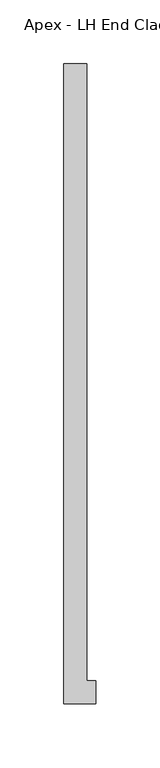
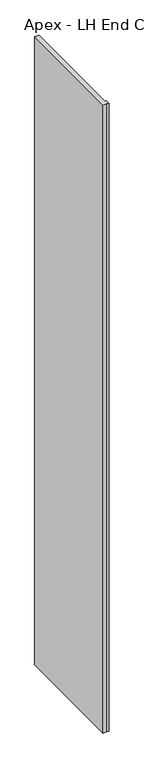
"""IFC4 building model written with IfcOpenShell, lengths in millimetres: furniture geometry, Apex - LH End Clad : Apex LH end clad."""

from ifc_helpers import new_model, si_unit, origin, origin_with_axes, place, context, project, spatial, polyline, outline, extrude, source, transform, mapped, element, save


def apex_lh_end_clad_apex_lh_end_clad_b14ebef5(model_context):
    return source(origin(), model_context, "Body", "SweptSolid", [
        extrude(outline(polyline([(18.0, 0.0), (18.0, -482.9540101), (25.0, -482.9540101), (25.0, -500.9540101), (13.9001791, -500.9540101), (0.0, -500.9540101), (0.0, 0.0), (18.0, 0.0)])), origin_with_axes(), (0.0, 0.0, 1.0), 2800.0),
    ])


if __name__ == "__main__":
    model = new_model("IFC4")
    model_context = context("Model", 3, world=origin())
    ifc_project = project(units=[si_unit("LENGTHUNIT", "METRE", prefix="MILLI")], contexts=[model_context])
    site = spatial("IfcSite", under=ifc_project)
    building = spatial("IfcBuilding", under=site)
    placement = place(None, origin())
    apex_lh_end_clad_apex_lh_end_clad_shape = apex_lh_end_clad_apex_lh_end_clad_b14ebef5(model_context)
    element("IfcFurniture", 1, ObjectType="Apex - LH End Clad : Apex LH end clad", at=placement, inside=building, context=model_context, shape_type="MappedRepresentation", body=[
        mapped(apex_lh_end_clad_apex_lh_end_clad_shape, transform((0.0, 0.0, 0.0), x_axis=(1.0, 0.0, 0.0), y_axis=(0.0, 1.0, 0.0), z_axis=(0.0, 0.0, 1.0))),
    ])
    save(model, "model.ifc")
